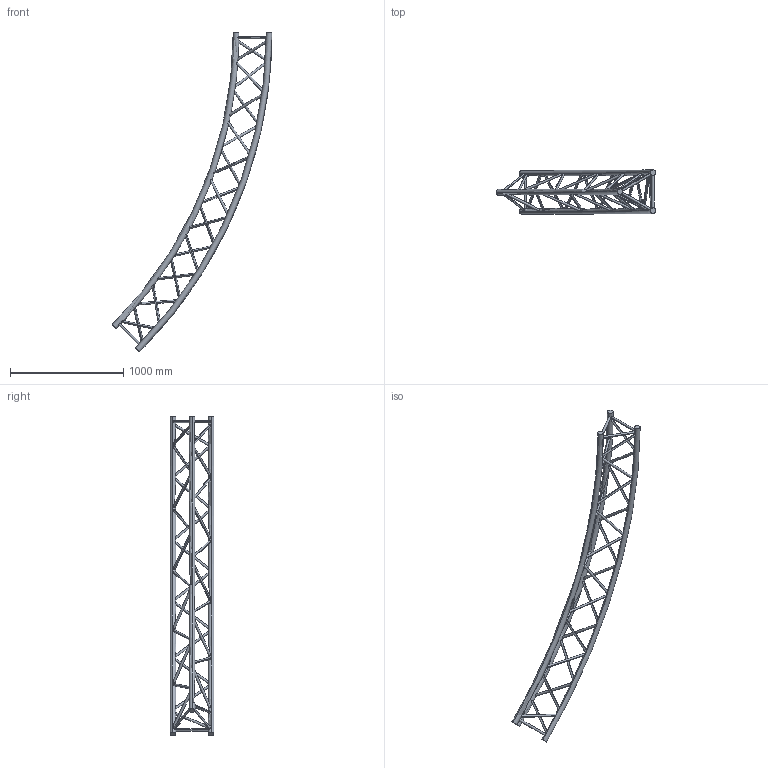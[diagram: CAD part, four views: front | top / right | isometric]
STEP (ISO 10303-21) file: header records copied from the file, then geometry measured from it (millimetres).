
FILE_DESCRIPTION (( 'STEP AP203' ), '1' );
FILE_NAME ('SXC39800PI.STEP', '2009-10-21T11:36:22', ( 'CEDIA' ), ( 'CEDIA INDUSTRIE' ), 'SwSTEP 2.0', 'SolidWorks 2009', '' );
FILE_SCHEMA (( 'CONFIG_CONTROL_DESIGN' ));
Length unit declared in the file: millimetre
Products named in the file (1): SXC39800PI
Bounding box: 1413.3 x 387 x 2828.43 mm (x, y, z)
Volume: 22241693.1 mm3; surface area: 2280114.9 mm2
Topology: 1 solids, 1 shells, 90 faces, 252 edges, 168 vertices
Faces by surface type: cylinder 78, torus 6, plane 6
Entity records: 10413 total; most frequent: CARTESIAN_POINT 8157, ORIENTED_EDGE 504, DIRECTION 296, EDGE_CURVE 252, EDGE_LOOP 168, VERTEX_POINT 168, B_SPLINE_CURVE_WITH_KNOTS 156, AXIS2_PLACEMENT_3D 109
